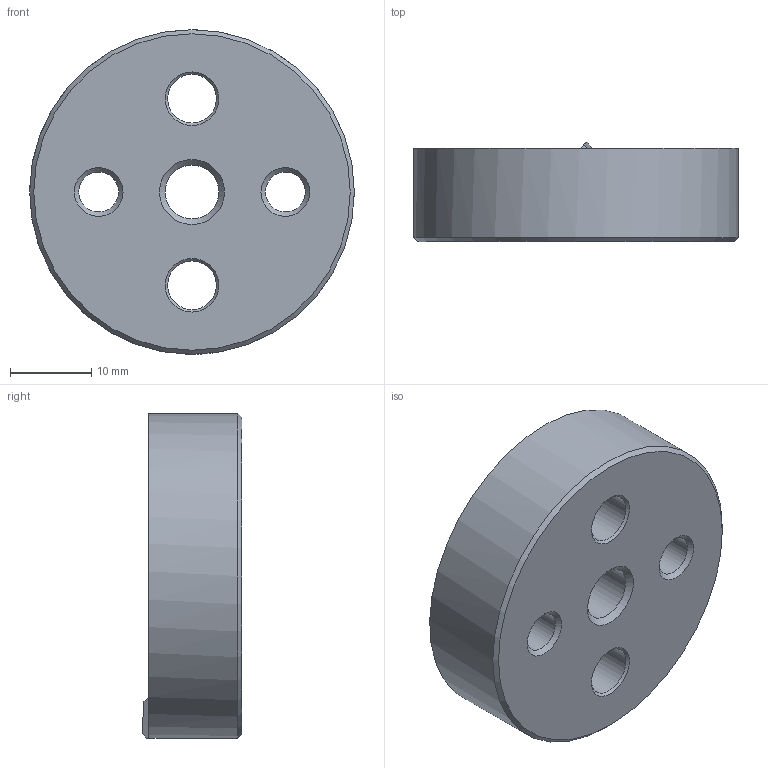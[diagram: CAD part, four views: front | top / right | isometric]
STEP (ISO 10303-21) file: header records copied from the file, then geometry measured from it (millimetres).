
FILE_DESCRIPTION( ( 'STEP AP203' ), '1' );
FILE_NAME( 'C:/Temp/Ganter_Step_05_03_2020/data/3_2/gn187_4/gn187_4_st/Serrated locking plate GN 187.4-40-48-C-ST.stp', '2020-03-13T05:25:44', ( 'License CC BY-ND 4.0' ), ( 'CADENAS' ), ' ', 'PARTsolutions', ' ' );
FILE_SCHEMA( ( 'CONFIG_CONTROL_DESIGN' ) );
Length unit declared in the file: millimetre
Products named in the file (1): _Serrated locking plate GN 187.4-40-48-C-ST
Bounding box: 40 x 12.32 x 40 mm (x, y, z)
Volume: 12055.9 mm3; surface area: 4669.1 mm2
Topology: 1 solids, 1 shells, 30 faces, 74 edges, 46 vertices
Faces by surface type: cone 14, cylinder 9, plane 7
Full cylindrical faces by diameter (mm): 4.917 x2, 6 x2, 6.647 x1, 30 x1, 40 x1
Entity records: 924 total; most frequent: CARTESIAN_POINT 229, DIRECTION 142, ORIENTED_EDGE 106, AXIS2_PLACEMENT_3D 68, EDGE_LOOP 58, EDGE_CURVE 53, VERTEX_POINT 43, FACE_OUTER_BOUND 37
